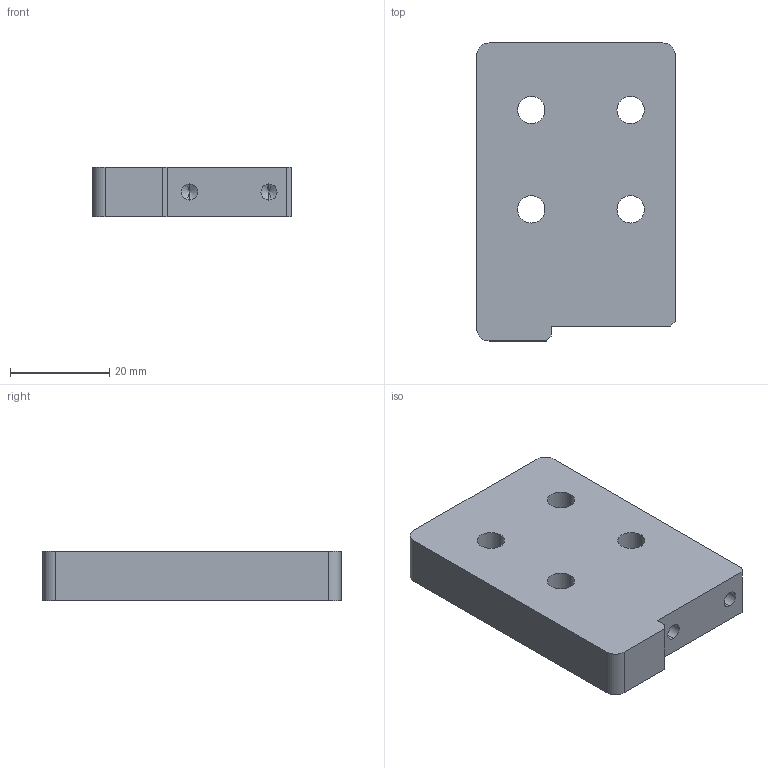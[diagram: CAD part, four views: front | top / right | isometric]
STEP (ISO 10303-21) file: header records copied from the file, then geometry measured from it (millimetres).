
FILE_DESCRIPTION (( 'STEP AP214' ), '1' );
FILE_NAME ('GZ29.15_V1底座-V02.STEP', '2021-05-08T03:26:05', ( '微软中国' ), ( 'Microsoft' ), 'SwSTEP 2.0', 'SolidWorks 2017', '' );
FILE_SCHEMA (( 'AUTOMOTIVE_DESIGN' ));
Length unit declared in the file: millimetre
Products named in the file (1): GZ29.15_V1菁釱-V02
Bounding box: 40 x 60 x 10 mm (x, y, z)
Volume: 22054.2 mm3; surface area: 7334.1 mm2
Topology: 1 solids, 1 shells, 29 faces, 77 edges, 48 vertices
Faces by surface type: cylinder 15, plane 10, cone 4
Entity records: 975 total; most frequent: DIRECTION 163, CARTESIAN_POINT 151, ORIENTED_EDGE 146, EDGE_CURVE 73, AXIS2_PLACEMENT_3D 60, VERTEX_POINT 48, VECTOR 43, LINE 43
